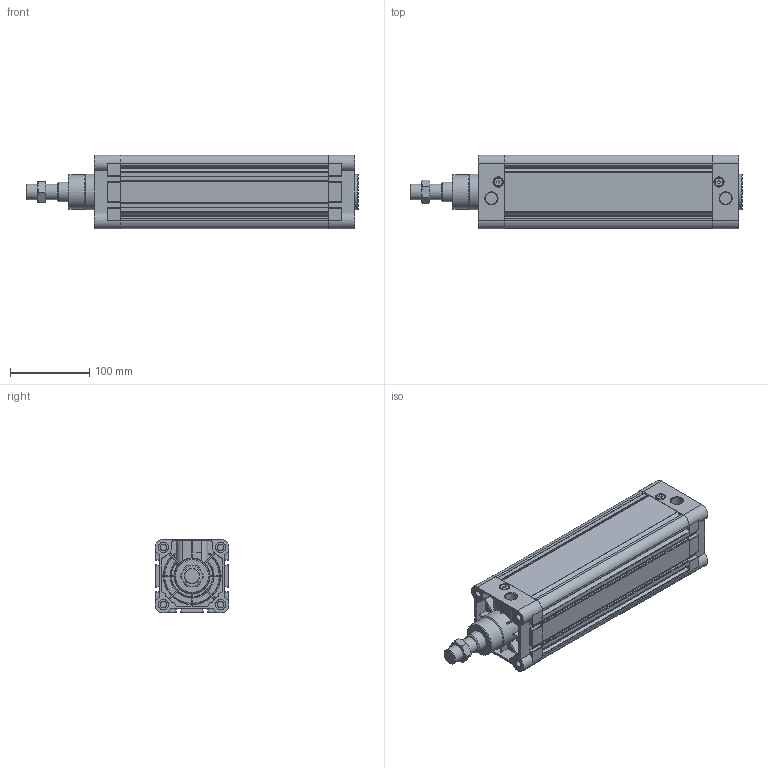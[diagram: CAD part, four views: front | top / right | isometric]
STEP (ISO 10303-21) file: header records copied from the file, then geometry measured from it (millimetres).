
FILE_DESCRIPTION( ( 'STEP AP214' ), '1' );
FILE_NAME( 'C:/Users/emc02044/Desktop/FVBC/FVBC80X200-S.stp', '2026-07-20T06:56:48', ( 'License CC BY-ND 4.0' ), ( 'CADENAS' ), ' ', 'PARTsolutions', ' ' );
FILE_SCHEMA( ( 'AUTOMOTIVE_DESIGN { 1 0 10303 214 1 1 1 1 }' ) );
Length unit declared in the file: millimetre
Products named in the file (3): FVBC80X200-0-S()(0); _FVB80x200()_fvbc_body ; _80X200-0_rod
Assembly tree (2 placements, depth 2):
  FVBC80X200-0-S()(0)
    _FVB80x200()_fvbc_body 
    _80X200-0_rod
Bounding box: 418 x 93 x 93 mm (x, y, z)
Volume: 1658796 mm3; surface area: 319580.9 mm2
Topology: 2 solids, 8 shells, 731 faces, 1974 edges, 1292 vertices
Faces by surface type: plane 353, cylinder 267, torus 57, cone 54
Full cylindrical faces by diameter (mm): 4 x2, 6.4 x2, 8.376 x8, 8.4 x2, 10 x4, 10.8 x2, 12 x6, 13 x8, 14.95 x2, 20 x2, 25 x3, 30 x2, 43 x1, 45 x2, 80 x2
Entity records: 29163 total; most frequent: CARTESIAN_POINT 5032, DIRECTION 3857, ORIENTED_EDGE 3746, EDGE_CURVE 1873, AXIS2_PLACEMENT_3D 1446, VERTEX_POINT 1271, LINE 965, VECTOR 965
